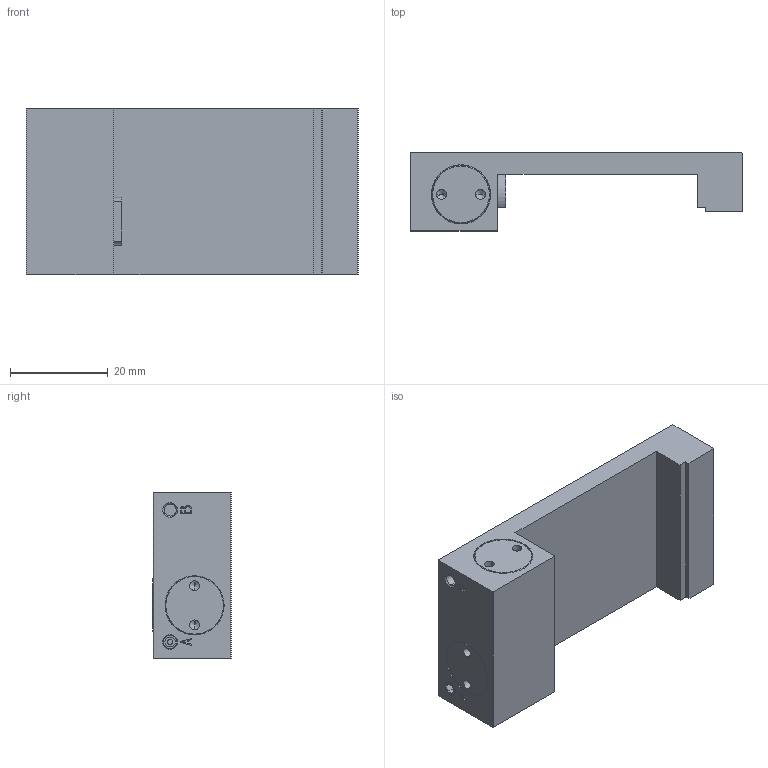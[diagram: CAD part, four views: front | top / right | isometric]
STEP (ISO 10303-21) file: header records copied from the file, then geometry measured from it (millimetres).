
FILE_DESCRIPTION( ( '' ), '1' );
FILE_NAME( 'E:/04 嬴檜蠱滌/0404 ZIMMER/040414 ZIMMER CAD download/MCP/MCP1501HW---.stp', '2020-04-16T10:02:29', ( '' ), ( '' ), ' ', ' ', ' ' );
FILE_SCHEMA( ( 'automotive_design' ) );
Length unit declared in the file: millimetre
Products named in the file (1): 1
Bounding box: 68 x 16.05 x 34 mm (x, y, z)
Volume: 19533.8 mm3; surface area: 7828.9 mm2
Topology: 1 solids, 1 shells, 118 faces, 280 edges, 176 vertices
Faces by surface type: plane 64, cylinder 32, cone 22
Entity records: 6536 total; most frequent: DIRECTION 590, STYLED_ITEM 567, PRESENTATION_STYLE_ASSIGNMENT 567, CARTESIAN_POINT 567, COLOUR_RGB 567, ORIENTED_EDGE 544, EDGE_CURVE 272, CURVE_STYLE 272
